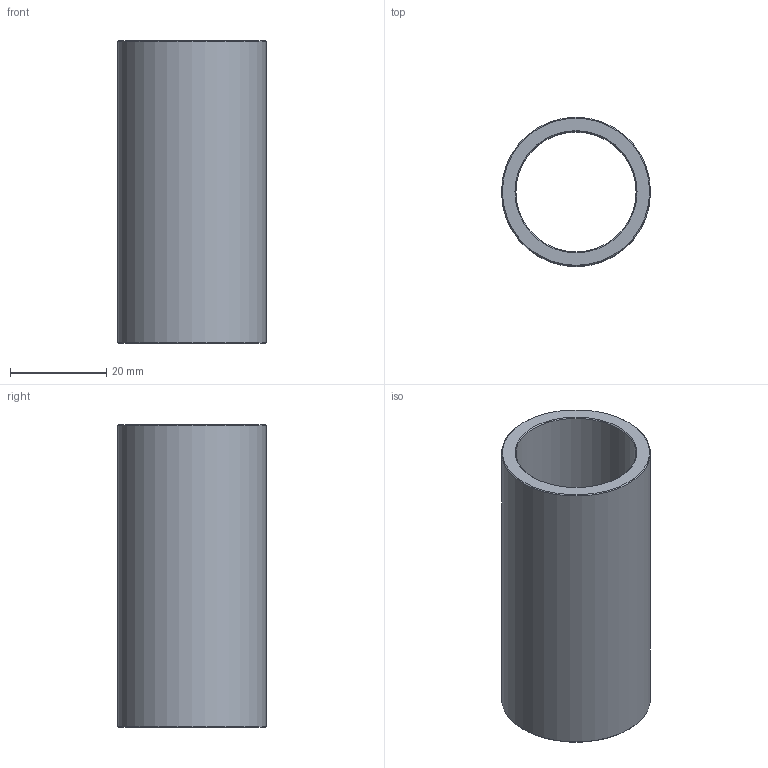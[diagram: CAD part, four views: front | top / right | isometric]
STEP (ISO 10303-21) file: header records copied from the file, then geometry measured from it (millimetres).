
FILE_DESCRIPTION(('STEP AP203'),'1');
FILE_NAME('C:/Users/Rodrigo/Desktop/GA3.025.063-1.step','2016-11-07T16:06:08',(' '),(' '),'Spatial InterOp 3D',' ',' ');
FILE_SCHEMA(('CONFIG_CONTROL_DESIGN'));
Length unit declared in the file: millimetre
Products named in the file (1): 1
Bounding box: 31 x 31 x 63 mm (x, y, z)
Volume: 16618.3 mm3; surface area: 11570.1 mm2
Topology: 1 solids, 1 shells, 8 faces, 14 edges, 8 vertices
Faces by surface type: cone 4, cylinder 2, plane 2
Full cylindrical faces by diameter (mm): 25 x1, 31 x1
Entity records: 212 total; most frequent: DIRECTION 34, CARTESIAN_POINT 25, AXIS2_PLACEMENT_3D 17, EDGE_LOOP 16, ORIENTED_EDGE 16, FACE_OUTER_BOUND 10, ADVANCED_FACE 8, EDGE_CURVE 8
